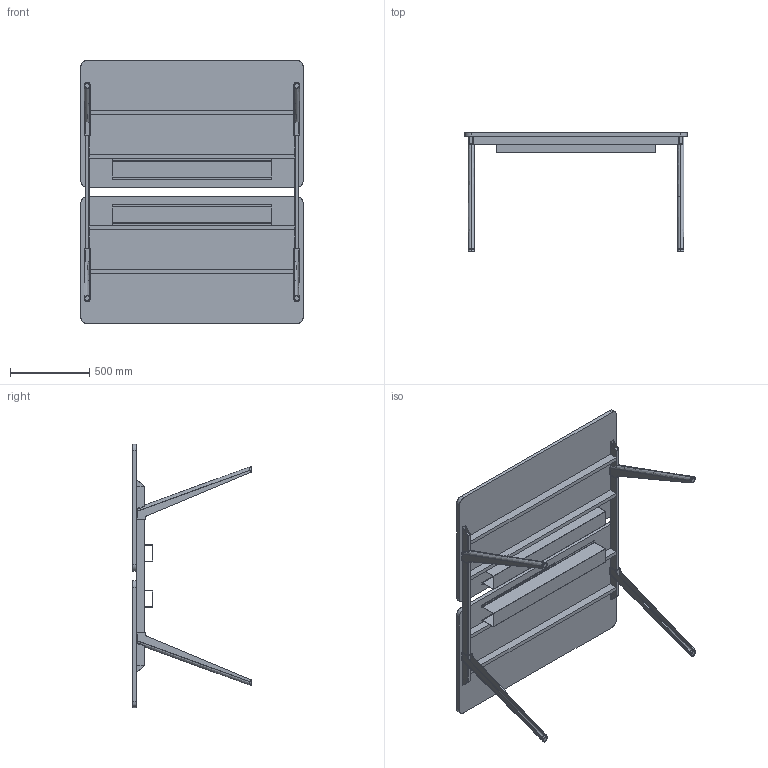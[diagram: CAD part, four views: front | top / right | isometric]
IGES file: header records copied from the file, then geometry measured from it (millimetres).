
Start section: SolidWorks IGES file using analytic representation for surfaces
Global section: file name: C:\Users\simone.cerana\OneDrive - Gruppo Tecno\Desktop\CHINA\DISEGNI DI SERIE\ASSIEMI LISTINO\HORIZON LISTINO\FULL OPTIONAL\HO1416FO.IGS; native system: SolidWorks 2024; preprocessor: SolidWorks 2024; author: simone.cerana; date: 260512.153316; units: millimetre
Bounding box: 1400 x 750.58 x 1660 mm (x, y, z)
Surface area: 7460903 mm2 (no closed solid volume)
Topology: 0 solids, 0 shells, 364 faces, 4416 edges, 4416 vertices
Faces by surface type: bspline 256, revolution 108
